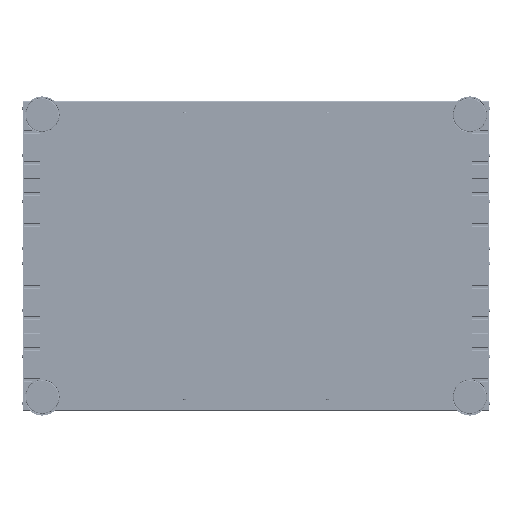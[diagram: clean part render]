
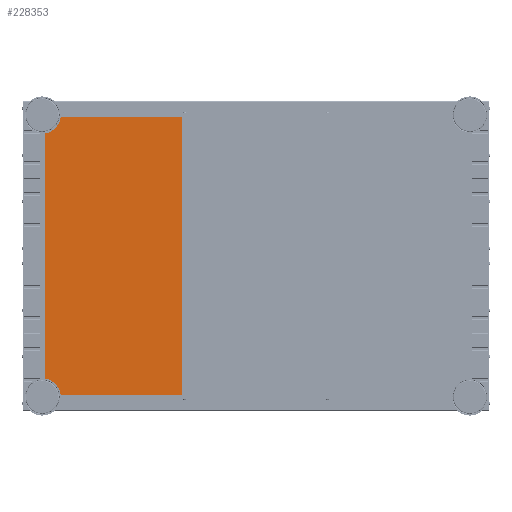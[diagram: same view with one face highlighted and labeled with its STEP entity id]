
A CAD part, front view. The second image highlights one B-rep face of the part: STEP entity #228353.
In plain terms, the highlighted planar face has unit normal (0, -1, 0).
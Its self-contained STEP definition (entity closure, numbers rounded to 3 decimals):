
#32810 = CARTESIAN_POINT ( 'NONE',  ( -692.75, 150., 457.75 ) ) ;
#32820 = PLANE ( 'NONE',  #63479 ) ;
#32829 = DIRECTION ( 'NONE',  ( 0., 1., 0. ) ) ;
#32833 = DIRECTION ( 'NONE',  ( 0., 0., 1. ) ) ;
#42186 = FACE_OUTER_BOUND ( 'NONE', #98478, .T. ) ;
#63479 = AXIS2_PLACEMENT_3D ( 'NONE', #32810, #32829, #32833 ) ;
#71838 = VERTEX_POINT ( 'NONE', #132227 ) ;
#71856 = VERTEX_POINT ( 'NONE', #132233 ) ;
#71870 = VERTEX_POINT ( 'NONE', #132236 ) ;
#71876 = VERTEX_POINT ( 'NONE', #132231 ) ;
#71886 = VERTEX_POINT ( 'NONE', #132240 ) ;
#71894 = VERTEX_POINT ( 'NONE', #132234 ) ;
#71900 = VERTEX_POINT ( 'NONE', #132242 ) ;
#71908 = VERTEX_POINT ( 'NONE', #132244 ) ;
#71916 = VERTEX_POINT ( 'NONE', #132246 ) ;
#71924 = VERTEX_POINT ( 'NONE', #132249 ) ;
#71928 = VERTEX_POINT ( 'NONE', #132255 ) ;
#71937 = VERTEX_POINT ( 'NONE', #132253 ) ;
#71943 = VERTEX_POINT ( 'NONE', #132247 ) ;
#71950 = VERTEX_POINT ( 'NONE', #132257 ) ;
#71963 = VERTEX_POINT ( 'NONE', #132259 ) ;
#71986 = VERTEX_POINT ( 'NONE', #132267 ) ;
#71997 = VERTEX_POINT ( 'NONE', #132272 ) ;
#72003 = VERTEX_POINT ( 'NONE', #132265 ) ;
#98478 = EDGE_LOOP ( 'NONE', ( #191417, #191418, #191419, #191420, #191421, #191422, #191423, #191424, #191425, #191426, #191427, #191428, #191429, #191430, #191431, #191432, #191433, #191434 ) ) ;
#116879 = CARTESIAN_POINT ( 'NONE',  ( -230.25, 150., -457.75 ) ) ;
#116886 = CARTESIAN_POINT ( 'NONE',  ( -689.65, 150., 457.75 ) ) ;
#116890 = CARTESIAN_POINT ( 'NONE',  ( -692.75, 150., -413.75 ) ) ;
#116892 = DIRECTION ( 'NONE',  ( 0., 0., 1. ) ) ;
#116895 = DIRECTION ( 'NONE',  ( 0., 0., -1. ) ) ;
#116897 = DIRECTION ( 'NONE',  ( 0., 0., 1. ) ) ;
#116899 = CARTESIAN_POINT ( 'NONE',  ( -648.75, 150., 457.75 ) ) ;
#116901 = DIRECTION ( 'NONE',  ( 1., 0., 0. ) ) ;
#116906 = CARTESIAN_POINT ( 'NONE',  ( -692.75, 150., -446.25 ) ) ;
#116908 = CARTESIAN_POINT ( 'NONE',  ( -692.75, 150., -447.5 ) ) ;
#116910 = CARTESIAN_POINT ( 'NONE',  ( -656.75, 150., -421.75 ) ) ;
#116912 = DIRECTION ( 'NONE',  ( 0., 1., 0. ) ) ;
#116915 = DIRECTION ( 'NONE',  ( 0., 0., 1. ) ) ;
#116919 = CARTESIAN_POINT ( 'NONE',  ( -230.25, 150., -454.65 ) ) ;
#116922 = CARTESIAN_POINT ( 'NONE',  ( -233.35, 150., -446.25 ) ) ;
#116924 = DIRECTION ( 'NONE',  ( -1., 0., 0. ) ) ;
#116927 = DIRECTION ( 'NONE',  ( 1., 0., 0. ) ) ;
#116934 = CARTESIAN_POINT ( 'NONE',  ( -234.6, 150., 457.75 ) ) ;
#116936 = CARTESIAN_POINT ( 'NONE',  ( -692.75, 150., 446.25 ) ) ;
#116939 = DIRECTION ( 'NONE',  ( 0., 0., -1. ) ) ;
#116941 = DIRECTION ( 'NONE',  ( -1., 0., 0. ) ) ;
#116946 = CARTESIAN_POINT ( 'NONE',  ( -234.6, 150., 457.75 ) ) ;
#116949 = DIRECTION ( 'NONE',  ( 0., 0., -1. ) ) ;
#116953 = CARTESIAN_POINT ( 'NONE',  ( -692.75, 150., 447.5 ) ) ;
#116956 = DIRECTION ( 'NONE',  ( 1., 0., 0. ) ) ;
#116960 = CARTESIAN_POINT ( 'NONE',  ( -230.25, 150., 457.75 ) ) ;
#116963 = DIRECTION ( 'NONE',  ( 0., 0., -1. ) ) ;
#116968 = CARTESIAN_POINT ( 'NONE',  ( -648.75, 150., 457.75 ) ) ;
#116970 = DIRECTION ( 'NONE',  ( -1., 0., 0. ) ) ;
#116974 = DIRECTION ( 'NONE',  ( -1., 0., 0. ) ) ;
#116977 = DIRECTION ( 'NONE',  ( 0., 0., 1. ) ) ;
#116984 = CARTESIAN_POINT ( 'NONE',  ( -688.75, 150., 454.65 ) ) ;
#116986 = CARTESIAN_POINT ( 'NONE',  ( -692.75, 150., 413.75 ) ) ;
#116989 = DIRECTION ( 'NONE',  ( 1., 0., 0. ) ) ;
#116991 = DIRECTION ( 'NONE',  ( 0., 0., -1. ) ) ;
#117005 = CARTESIAN_POINT ( 'NONE',  ( -656.75, 150., 421.75 ) ) ;
#117008 = DIRECTION ( 'NONE',  ( 0., 1., 0. ) ) ;
#117011 = DIRECTION ( 'NONE',  ( 0., 0., 1. ) ) ;
#117781 = LINE ( 'NONE', #116879, #117786 ) ;
#117783 = LINE ( 'NONE', #116886, #117788 ) ;
#117785 = LINE ( 'NONE', #116890, #117790 ) ;
#117786 = VECTOR ( 'NONE', #116892, 1000. ) ;
#117787 = LINE ( 'NONE', #116908, #117797 ) ;
#117788 = VECTOR ( 'NONE', #116897, 1000. ) ;
#117789 = CIRCLE ( 'NONE', #178212, 8. ) ;
#117790 = VECTOR ( 'NONE', #116901, 1000. ) ;
#117791 = LINE ( 'NONE', #116899, #117793 ) ;
#117792 = LINE ( 'NONE', #116919, #117795 ) ;
#117793 = VECTOR ( 'NONE', #116895, 1000. ) ;
#117794 = LINE ( 'NONE', #116906, #117801 ) ;
#117795 = VECTOR ( 'NONE', #116924, 1000. ) ;
#117796 = LINE ( 'NONE', #116934, #117799 ) ;
#117797 = VECTOR ( 'NONE', #116927, 1000. ) ;
#117798 = LINE ( 'NONE', #116922, #117803 ) ;
#117799 = VECTOR ( 'NONE', #116939, 1000. ) ;
#117800 = LINE ( 'NONE', #116936, #117805 ) ;
#117801 = VECTOR ( 'NONE', #116941, 1000. ) ;
#117802 = LINE ( 'NONE', #116946, #117807 ) ;
#117803 = VECTOR ( 'NONE', #116949, 1000. ) ;
#117804 = LINE ( 'NONE', #116953, #117809 ) ;
#117805 = VECTOR ( 'NONE', #116956, 1000. ) ;
#117806 = LINE ( 'NONE', #116960, #117811 ) ;
#117807 = VECTOR ( 'NONE', #116963, 1000. ) ;
#117808 = LINE ( 'NONE', #116968, #117815 ) ;
#117809 = VECTOR ( 'NONE', #116970, 1000. ) ;
#117810 = LINE ( 'NONE', #116984, #117813 ) ;
#117811 = VECTOR ( 'NONE', #116977, 1000. ) ;
#117813 = VECTOR ( 'NONE', #116989, 1000. ) ;
#117814 = CIRCLE ( 'NONE', #178213, 8. ) ;
#117815 = VECTOR ( 'NONE', #116991, 1000. ) ;
#117816 = LINE ( 'NONE', #116986, #117818 ) ;
#117818 = VECTOR ( 'NONE', #116974, 1000. ) ;
#132227 = CARTESIAN_POINT ( 'NONE',  ( -230.25, 150., -454.65 ) ) ;
#132231 = CARTESIAN_POINT ( 'NONE',  ( -230.25, 150., -447.5 ) ) ;
#132233 = CARTESIAN_POINT ( 'NONE',  ( -234.6, 150., 446.25 ) ) ;
#132234 = CARTESIAN_POINT ( 'NONE',  ( -689.65, 150., 413.75 ) ) ;
#132236 = CARTESIAN_POINT ( 'NONE',  ( -689.65, 150., -413.75 ) ) ;
#132240 = CARTESIAN_POINT ( 'NONE',  ( -233.35, 150., -446.25 ) ) ;
#132242 = CARTESIAN_POINT ( 'NONE',  ( -234.6, 150., -447.5 ) ) ;
#132244 = CARTESIAN_POINT ( 'NONE',  ( -233.35, 150., 446.25 ) ) ;
#132246 = CARTESIAN_POINT ( 'NONE',  ( -656.75, 150., -413.75 ) ) ;
#132247 = CARTESIAN_POINT ( 'NONE',  ( -234.6, 150., 447.5 ) ) ;
#132249 = CARTESIAN_POINT ( 'NONE',  ( -648.75, 150., -421.75 ) ) ;
#132253 = CARTESIAN_POINT ( 'NONE',  ( -234.6, 150., -446.25 ) ) ;
#132255 = CARTESIAN_POINT ( 'NONE',  ( -648.75, 150., -454.65 ) ) ;
#132257 = CARTESIAN_POINT ( 'NONE',  ( -230.25, 150., 447.5 ) ) ;
#132259 = CARTESIAN_POINT ( 'NONE',  ( -648.75, 150., 454.65 ) ) ;
#132265 = CARTESIAN_POINT ( 'NONE',  ( -656.75, 150., 413.75 ) ) ;
#132267 = CARTESIAN_POINT ( 'NONE',  ( -230.25, 150., 454.65 ) ) ;
#132272 = CARTESIAN_POINT ( 'NONE',  ( -648.75, 150., 421.75 ) ) ;
#178212 = AXIS2_PLACEMENT_3D ( 'NONE', #116910, #116912, #116915 ) ;
#178213 = AXIS2_PLACEMENT_3D ( 'NONE', #117005, #117008, #117011 ) ;
#191417 = ORIENTED_EDGE ( 'NONE', *, *, #209679, .F. ) ;
#191418 = ORIENTED_EDGE ( 'NONE', *, *, #209683, .T. ) ;
#191419 = ORIENTED_EDGE ( 'NONE', *, *, #209686, .T. ) ;
#191420 = ORIENTED_EDGE ( 'NONE', *, *, #209689, .T. ) ;
#191421 = ORIENTED_EDGE ( 'NONE', *, *, #209692, .F. ) ;
#191422 = ORIENTED_EDGE ( 'NONE', *, *, #209675, .T. ) ;
#191423 = ORIENTED_EDGE ( 'NONE', *, *, #209695, .F. ) ;
#191424 = ORIENTED_EDGE ( 'NONE', *, *, #209698, .F. ) ;
#191425 = ORIENTED_EDGE ( 'NONE', *, *, #209703, .F. ) ;
#191426 = ORIENTED_EDGE ( 'NONE', *, *, #209706, .F. ) ;
#191427 = ORIENTED_EDGE ( 'NONE', *, *, #209708, .F. ) ;
#191428 = ORIENTED_EDGE ( 'NONE', *, *, #209711, .F. ) ;
#191429 = ORIENTED_EDGE ( 'NONE', *, *, #209713, .F. ) ;
#191430 = ORIENTED_EDGE ( 'NONE', *, *, #209716, .T. ) ;
#191431 = ORIENTED_EDGE ( 'NONE', *, *, #209720, .F. ) ;
#191432 = ORIENTED_EDGE ( 'NONE', *, *, #209724, .T. ) ;
#191433 = ORIENTED_EDGE ( 'NONE', *, *, #209726, .T. ) ;
#191434 = ORIENTED_EDGE ( 'NONE', *, *, #209729, .T. ) ;
#209675 = EDGE_CURVE ( 'NONE', #71838, #71876, #117781, .T. ) ;
#209679 = EDGE_CURVE ( 'NONE', #71870, #71894, #117783, .T. ) ;
#209683 = EDGE_CURVE ( 'NONE', #71870, #71916, #117785, .T. ) ;
#209686 = EDGE_CURVE ( 'NONE', #71916, #71924, #117789, .T. ) ;
#209689 = EDGE_CURVE ( 'NONE', #71924, #71928, #117791, .T. ) ;
#209692 = EDGE_CURVE ( 'NONE', #71838, #71928, #117792, .T. ) ;
#209695 = EDGE_CURVE ( 'NONE', #71900, #71876, #117787, .T. ) ;
#209698 = EDGE_CURVE ( 'NONE', #71937, #71900, #117796, .T. ) ;
#209703 = EDGE_CURVE ( 'NONE', #71886, #71937, #117794, .T. ) ;
#209706 = EDGE_CURVE ( 'NONE', #71908, #71886, #117798, .T. ) ;
#209708 = EDGE_CURVE ( 'NONE', #71856, #71908, #117800, .T. ) ;
#209711 = EDGE_CURVE ( 'NONE', #71943, #71856, #117802, .T. ) ;
#209713 = EDGE_CURVE ( 'NONE', #71950, #71943, #117804, .T. ) ;
#209716 = EDGE_CURVE ( 'NONE', #71950, #71986, #117806, .T. ) ;
#209720 = EDGE_CURVE ( 'NONE', #71963, #71986, #117810, .T. ) ;
#209724 = EDGE_CURVE ( 'NONE', #71963, #71997, #117808, .T. ) ;
#209726 = EDGE_CURVE ( 'NONE', #71997, #72003, #117814, .T. ) ;
#209729 = EDGE_CURVE ( 'NONE', #72003, #71894, #117816, .T. ) ;
#228353 = ADVANCED_FACE ( 'NONE', ( #42186 ), #32820, .F. ) ;
